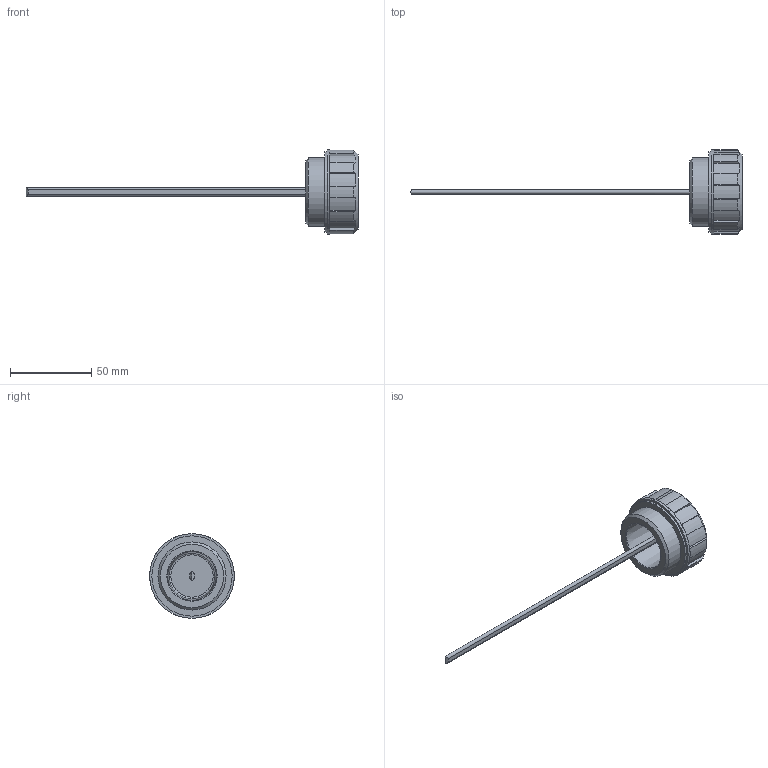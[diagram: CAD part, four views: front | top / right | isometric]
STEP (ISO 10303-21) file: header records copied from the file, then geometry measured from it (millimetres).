
FILE_DESCRIPTION( ( 'STEP AP203' ), '1' );
FILE_NAME( 'C:/Temp/Ganter_Step_05_03_2020/data/3_5/gn548_1/Plug GN 548.1-G11_4-B.stp', '2020-03-12T13:35:46', ( 'License CC BY-ND 4.0' ), ( 'CADENAS' ), ' ', 'PARTsolutions', ' ' );
FILE_SCHEMA( ( 'CONFIG_CONTROL_DESIGN' ) );
Length unit declared in the file: millimetre
Products named in the file (1): _Plug GN 548.1-G11/4-B
Bounding box: 204 x 52 x 52 mm (x, y, z)
Volume: 40149 mm3; surface area: 14610.2 mm2
Topology: 1 solids, 1 shells, 62 faces, 160 edges, 106 vertices
Faces by surface type: plane 31, cylinder 26, cone 3, torus 2
Full cylindrical faces by diameter (mm): 41.91 x1, 47.273 x1, 49.4 x1, 52 x1
Entity records: 1909 total; most frequent: CARTESIAN_POINT 376, DIRECTION 315, ORIENTED_EDGE 298, EDGE_CURVE 149, AXIS2_PLACEMENT_3D 123, VERTEX_POINT 104, EDGE_LOOP 77, LINE 69
